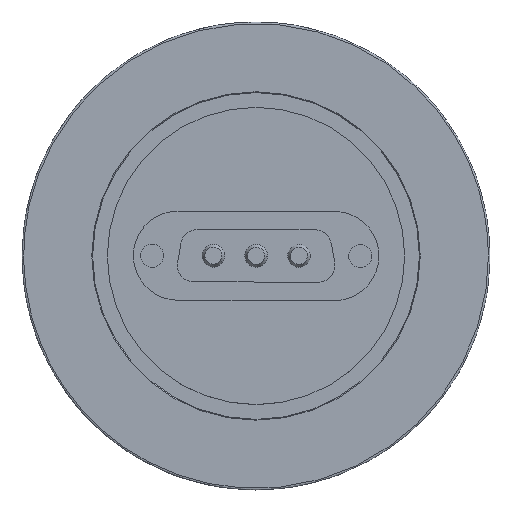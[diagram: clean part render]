
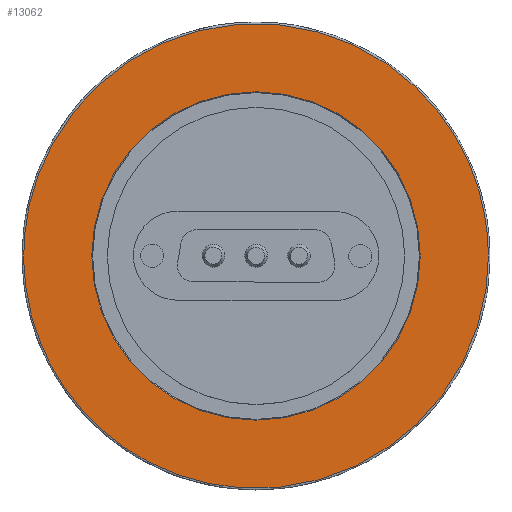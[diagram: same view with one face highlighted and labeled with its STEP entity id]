
A CAD part, top view. The second image highlights one B-rep face of the part: STEP entity #13062.
In plain terms, the highlighted planar face has unit normal (0, 0, 1).
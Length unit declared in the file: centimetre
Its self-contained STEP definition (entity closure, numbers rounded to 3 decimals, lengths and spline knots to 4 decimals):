
#525 = VERTEX_POINT ( 'NONE', #10025 ) ;
#708 = VERTEX_POINT ( 'NONE', #19541 ) ;
#742 = EDGE_CURVE ( 'NONE', #708, #21292, #26719, .T. ) ;
#773 = EDGE_CURVE ( 'NONE', #525, #525, #28098, .T. ) ;
#809 = EDGE_CURVE ( 'NONE', #21292, #708, #26796, .T. ) ;
#884 = AXIS2_PLACEMENT_3D ( 'NONE', #19456, #19455, #19454 ) ;
#906 = AXIS2_PLACEMENT_3D ( 'NONE', #27242, #27241, #27236 ) ;
#6678 = EDGE_LOOP ( 'NONE', ( #15356 ) ) ;
#6758 = EDGE_LOOP ( 'NONE', ( #15357, #15358 ) ) ;
#10025 = CARTESIAN_POINT ( 'NONE',  ( 3.7211, -0.0004, 0. ) ) ;
#13062 = ADVANCED_FACE ( 'NONE', ( #25670, #25683 ), #28966, .T. ) ;
#15356 = ORIENTED_EDGE ( 'NONE', *, *, #773, .F. ) ;
#15357 = ORIENTED_EDGE ( 'NONE', *, *, #742, .T. ) ;
#15358 = ORIENTED_EDGE ( 'NONE', *, *, #809, .T. ) ;
#19454 = DIRECTION ( 'NONE',  ( 1., 0., 0. ) ) ;
#19455 = DIRECTION ( 'NONE',  ( 0., 0., -1. ) ) ;
#19456 = CARTESIAN_POINT ( 'NONE',  ( 0., 0., 0. ) ) ;
#19541 = CARTESIAN_POINT ( 'NONE',  ( 2.6289, -0.0003, 0. ) ) ;
#21292 = VERTEX_POINT ( 'NONE', #29251 ) ;
#24068 = CARTESIAN_POINT ( 'NONE',  ( 3.7202, -7.4426, 0. ) ) ;
#24076 = CARTESIAN_POINT ( 'NONE',  ( 3.7211, -0.0004, 0. ) ) ;
#24083 = CARTESIAN_POINT ( 'NONE',  ( 3.722, 7.4418, 0. ) ) ;
#24095 = CARTESIAN_POINT ( 'NONE',  ( -3.722, -7.4418, 0. ) ) ;
#24096 = CARTESIAN_POINT ( 'NONE',  ( -3.7202, 7.4426, 0. ) ) ;
#24103 = CARTESIAN_POINT ( 'NONE',  ( 3.7211, -0.0004, 0. ) ) ;
#24107 = CARTESIAN_POINT ( 'NONE',  ( -3.7211, 0.0004, 0. ) ) ;
#24356 = AXIS2_PLACEMENT_3D ( 'NONE', #28965, #28971, #28972 ) ;
#25670 = FACE_OUTER_BOUND ( 'NONE', #6678, .T. ) ;
#25683 = FACE_BOUND ( 'NONE', #6758, .T. ) ;
#26719 = CIRCLE ( 'NONE', #884, 2.6289 ) ;
#26796 = CIRCLE ( 'NONE', #906, 2.6289 ) ;
#27236 = DIRECTION ( 'NONE',  ( 1., 0., 0. ) ) ;
#27241 = DIRECTION ( 'NONE',  ( 0., 0., -1. ) ) ;
#27242 = CARTESIAN_POINT ( 'NONE',  ( 0., 0., 0. ) ) ;
#28098 =( BOUNDED_CURVE ( )  B_SPLINE_CURVE ( 3, ( #24076, #24068, #24095, #24107, #24096, #24083, #24103 ),
 .UNSPECIFIED., .T., .F. ) 
 B_SPLINE_CURVE_WITH_KNOTS ( ( 4, 3, 4 ),
 ( 0., 0.5, 1. ),
 .UNSPECIFIED. ) 
 CURVE ( )  GEOMETRIC_REPRESENTATION_ITEM ( )  RATIONAL_B_SPLINE_CURVE ( ( 1., 0.333, 0.333, 1., 0.333, 0.333, 1. ) ) 
 REPRESENTATION_ITEM ( '' )  );
#28965 = CARTESIAN_POINT ( 'NONE',  ( 2.6162, -0.0003, 0. ) ) ;
#28966 = PLANE ( 'NONE',  #24356 ) ;
#28971 = DIRECTION ( 'NONE',  ( 0., 0., 1. ) ) ;
#28972 = DIRECTION ( 'NONE',  ( 1., 0., 0. ) ) ;
#29251 = CARTESIAN_POINT ( 'NONE',  ( -2.6289, 0.0003, 0. ) ) ;
